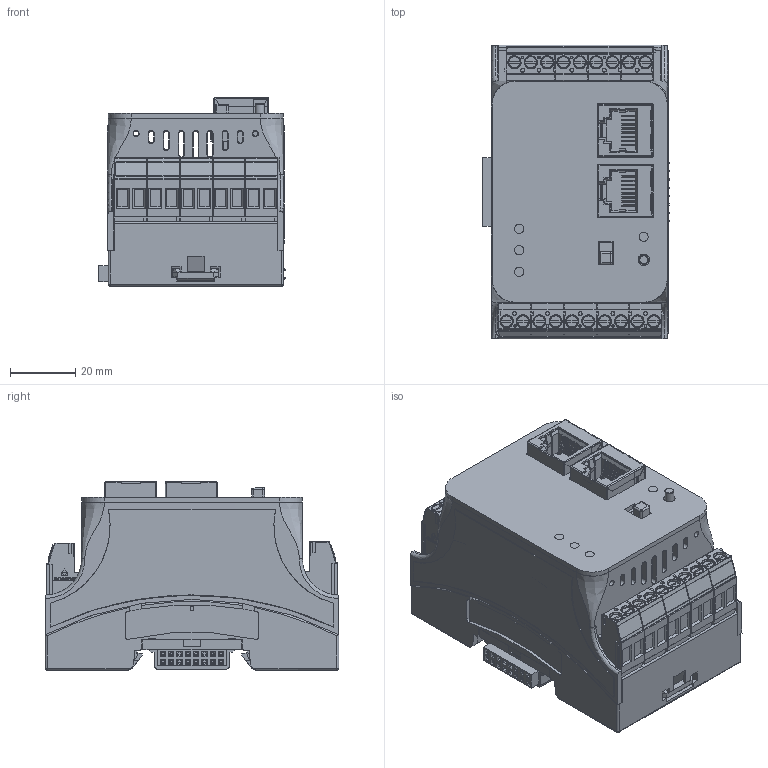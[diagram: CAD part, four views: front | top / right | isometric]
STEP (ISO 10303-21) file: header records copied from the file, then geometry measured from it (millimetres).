
FILE_DESCRIPTION(/* description */ (''),/* implementation_level */ '2;1');
FILE_NAME(/* name */ 'D:\WorkIMT\Project IMT\ИРИС-DIN\v2\!base\3D от Максима\MT.IRIS-DIN.BASE-2RS_2TX.stp',/* time_stamp */ '2026-08-31T11:42:21+03:00',/* author */ ('admin'),/* organization */ (''),/* preprocessor_version */ 'ST-DEVELOPER v17.2',/* originating_system */ 'Autodesk Inventor 2019',/* authorisation */ '');
FILE_SCHEMA (('AUTOMOTIVE_DESIGN { 1 0 10303 214 3 1 1 }'));
Products named in the file (1): MT.IRIS-DIN.BASE-2RS_2TX_TOP
Bounding box: 57.13 x 89.74 x 57.57 mm (x, y, z)
Volume: 75522.7 mm3; surface area: 84471.4 mm2
Topology: 6 solids, 57 shells, 9045 faces, 25482 edges, 16413 vertices
Faces by surface type: plane 7384, cylinder 957, bspline 280, cone 198, torus 127, sphere 99
Full cylindrical faces by diameter (mm): 0.9 x4, 1.2 x18, 1.754 x9, 2.8 x1, 3.5 x1, 4.05 x19
Entity records: 317525 total; most frequent: CARTESIAN_POINT 75093, ORIENTED_EDGE 50814, DIRECTION 44963, EDGE_CURVE 25407, LINE 21269, VECTOR 21269, VERTEX_POINT 16413, AXIS2_PLACEMENT_3D 11847
